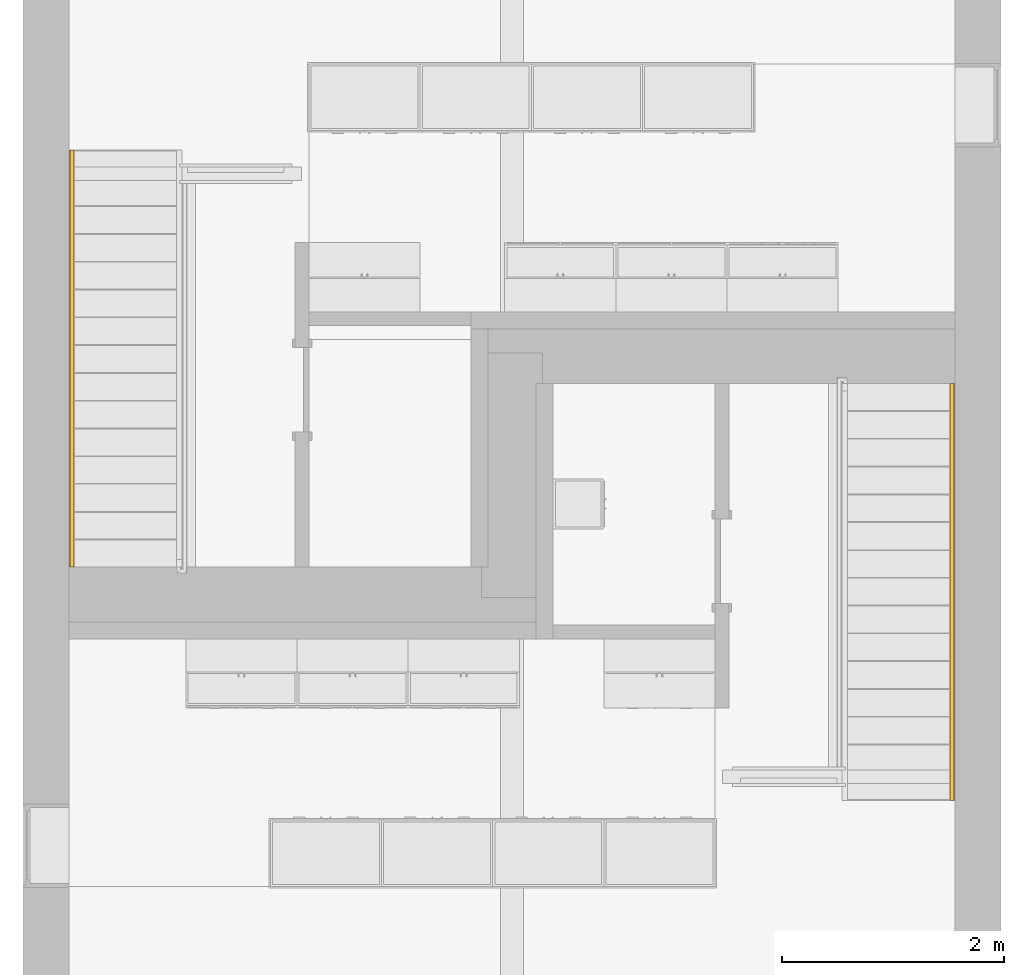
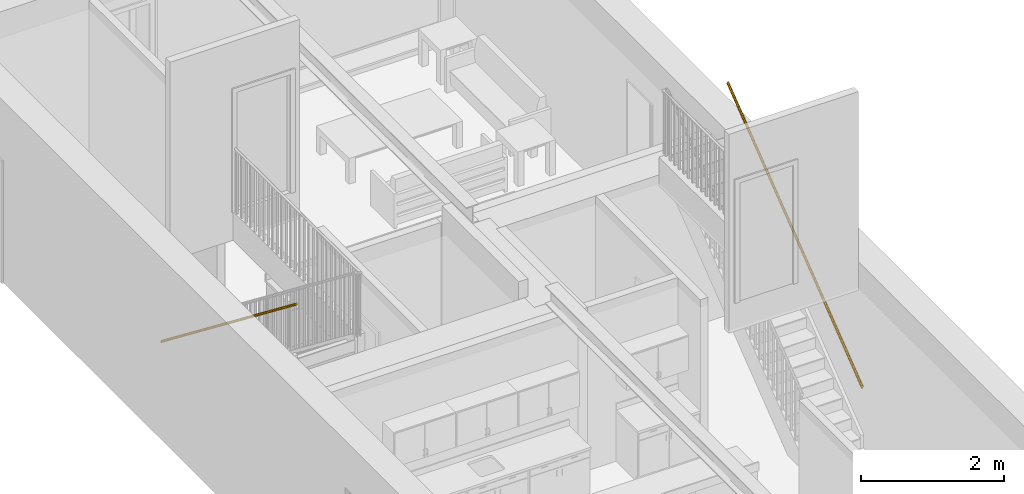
# One storey, part 3 of 14: 2 railings, 2 elements without a shape of their own.
"""IFC4 building model written with IfcOpenShell, lengths in metres."""

from ifc_helpers import new_model, entity, si_unit, converted_unit, frame, origin, place, context, project, spatial, face_set, surface_model, element, aggregate, save


model = new_model("IFC4")

# Units and contexts
model_context = context("Model", 3, precision=1e-09, world=origin())
plan_context = context("Plan", 3, precision=1e-09, world=origin())
ifc_project = project(units=[si_unit("LENGTHUNIT", "METRE"), si_unit("AREAUNIT", "SQUARE_METRE"), si_unit("VOLUMEUNIT", "CUBIC_METRE"), converted_unit("PLANEANGLEUNIT", "DEGREE", entity("IfcRatioMeasure", 0.01745329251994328), si_unit("PLANEANGLEUNIT", "RADIAN"), dimensions=[0, 0, 0, 0, 0, 0, 0]), si_unit("TIMEUNIT", "SECOND")], contexts=[model_context, plan_context])

# Site, building, storey
site_placement = place(None, origin())
site = spatial("IfcSite", under=ifc_project, at=site_placement, Name="Default", CompositionType="ELEMENT")
building_placement = place(site_placement, origin())
building = spatial("IfcBuilding", under=site, at=building_placement, CompositionType="ELEMENT")
storey_placement = place(building_placement, origin())
storey = spatial("IfcBuildingStorey", under=building, at=storey_placement, Name="Level 1", CompositionType="ELEMENT", Elevation=0.0)

# Stair, railing
stair_1_placement = place(storey_placement, origin())
stair_1 = element("IfcStair", 1, at=stair_1_placement, inside=storey, Name="Stair:Residential - 200mm Max Riser 250mm Tread", ObjectType="Stair:Residential - 200mm Max Riser 250mm Tread", PredefinedType="STRAIGHT_RUN_STAIR")
railing_1_placement = place(storey_placement, frame((8.336404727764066, -11.825, 1.041548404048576)))
railing_1 = element("IfcRailing", 2, at=railing_1_placement, Name="Railing:900mm Handrail Only", ObjectType="Railing:900mm Handrail Only", PredefinedType="NOTDEFINED", context=model_context, shape_type="SurfaceModel", body=[
    surface_model("IfcFaceBasedSurfaceModel", [(0.04159527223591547, 0.0, 0.02689843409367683), (0.04091378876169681, 0.0, 0.0203494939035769), (0.03573740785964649, 0.0, 0.009006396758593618), (0.02677165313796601, 0.0, 0.002457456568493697), (0.01641889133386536, 0.0, 0.002457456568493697), (0.007453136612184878, 0.0, 0.009006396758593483), (0.002276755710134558, 0.0, 0.02034949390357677), (0.0015952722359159, 0.0, 0.02689843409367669), (0.002276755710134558, 0.0, 0.03344737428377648), (0.007453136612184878, 0.0, 0.04479047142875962), (0.01641889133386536, 0.0, 0.05133941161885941), (0.02677165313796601, 0.0, 0.05133941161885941), (0.03573740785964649, 0.0, 0.04479047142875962), (0.04091378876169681, 0.0, 0.03344737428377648), (0.04159527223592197, 3.75, 2.933148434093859), (0.04091378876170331, 3.75, 2.926599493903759), (0.03573740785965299, 3.75, 2.915256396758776), (0.0267716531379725, 3.75, 2.908707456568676), (0.01641889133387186, 3.75, 2.908707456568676), (0.007453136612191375, 3.75, 2.915256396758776), (0.002276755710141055, 3.75, 2.926599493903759), (0.001595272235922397, 3.75, 2.933148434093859), (0.002276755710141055, 3.75, 2.939697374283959), (0.007453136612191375, 3.75, 2.951040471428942), (0.01641889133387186, 3.75, 2.957589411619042), (0.0267716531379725, 3.75, 2.957589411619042), (0.03573740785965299, 3.75, 2.951040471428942), (0.04091378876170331, 3.75, 2.939697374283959), (0.004274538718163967, 3.749999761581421, 2.920496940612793), (0.01159502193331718, 3.749999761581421, 2.911235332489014), (0.01159502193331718, -3.082275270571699e-07, 0.004985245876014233), (0.004274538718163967, -3.082275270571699e-07, 0.01424681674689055), (0.02159499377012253, 3.749999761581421, 2.907845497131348), (0.02159499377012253, -3.082275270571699e-07, 0.001595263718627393), (0.03159554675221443, 3.749999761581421, 2.911235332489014), (0.03159554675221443, -3.082275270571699e-07, 0.004985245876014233), (0.03891602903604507, 3.749999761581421, 2.920496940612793), (0.03891602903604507, -3.082275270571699e-07, 0.01424681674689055), (0.03891602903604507, 3.749999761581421, 2.945800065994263), (0.03891602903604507, -3.082275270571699e-07, 0.03954999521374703), (0.03159554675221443, -3.082275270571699e-07, 0.04881164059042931), (0.03159554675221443, 3.749999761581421, 2.955061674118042), (0.02159499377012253, -3.082275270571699e-07, 0.05220162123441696), (0.02159499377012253, 3.749999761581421, 2.958451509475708), (0.01159502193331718, 3.749999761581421, 2.955061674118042), (0.01159502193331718, -3.082275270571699e-07, 0.04881164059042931), (0.004274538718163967, 3.749999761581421, 2.945800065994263), (0.004274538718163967, -3.082275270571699e-07, 0.03954999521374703)], [face_set([[[0, 1, 2, 3, 4, 5, 6, 7, 8, 9, 10, 11, 12, 13]], [[14, 15, 16, 17, 18, 19, 20, 21, 22, 23, 24, 25, 26, 27]], [[20, 28, 6]], [[21, 20, 7]], [[29, 18, 30]], [[19, 29, 5]], [[28, 19, 31]], [[28, 31, 6]], [[6, 7, 20]], [[5, 29, 30]], [[4, 30, 18]], [[31, 19, 5]], [[32, 33, 4, 18]], [[34, 16, 2]], [[17, 34, 35]], [[15, 14, 0]], [[36, 15, 1]], [[16, 36, 37]], [[32, 17, 3, 33]], [[17, 35, 3]], [[16, 37, 2]], [[34, 2, 35]], [[36, 1, 37]], [[15, 0, 1]], [[27, 13, 14]], [[38, 39, 27]], [[40, 26, 41]], [[38, 26, 12]], [[41, 25, 11, 40]], [[13, 0, 14]], [[39, 13, 27]], [[42, 11, 25]], [[40, 12, 26]], [[39, 38, 12]], [[25, 43, 42]], [[42, 24, 10]], [[10, 24, 44, 45]], [[9, 23, 46]], [[44, 23, 45]], [[47, 46, 22]], [[45, 23, 9]], [[22, 8, 47]], [[47, 9, 46]], [[7, 8, 21]], [[22, 21, 8]], [[24, 42, 43]]])]),
])
aggregate(stair_1, [railing_1])

stair_2_placement = place(storey_placement, origin())
stair_2 = element("IfcStair", 3, at=stair_2_placement, inside=storey, Name="Stair:Residential - 200mm Max Riser 250mm Tread", ObjectType="Stair:Residential - 200mm Max Riser 250mm Tread", PredefinedType="STRAIGHT_RUN_STAIR")
railing_2_placement = place(storey_placement, frame((0.4204047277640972, -9.724999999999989, 1.041548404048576)))
railing_2 = element("IfcRailing", 4, at=railing_2_placement, Name="Railing:900mm Handrail Only", ObjectType="Railing:900mm Handrail Only", PredefinedType="NOTDEFINED", context=model_context, shape_type="SurfaceModel", body=[
    surface_model("IfcFaceBasedSurfaceModel", [(0.001595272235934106, 3.75, 0.02689843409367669), (0.002276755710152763, 3.75, 0.03344737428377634), (0.007453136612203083, 3.75, 0.04479047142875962), (0.01641889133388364, 3.75, 0.05133941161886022), (0.02677165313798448, 3.75, 0.05133941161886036), (0.03573740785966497, 3.75, 0.04479047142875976), (0.04091378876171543, 3.75, 0.03344737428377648), (0.04159527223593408, 3.75, 0.02689843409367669), (0.04091378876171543, 3.75, 0.02034949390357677), (0.03573740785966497, 3.75, 0.009006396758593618), (0.02677165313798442, 3.75, 0.002457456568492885), (0.01641889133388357, 3.75, 0.002457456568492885), (0.007453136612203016, 3.75, 0.009006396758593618), (0.002276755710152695, 3.75, 0.02034949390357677), (0.001595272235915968, 0.0, 2.933148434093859), (0.002276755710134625, 0.0, 2.939697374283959), (0.007453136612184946, 0.0, 2.951040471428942), (0.0164188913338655, 0.0, 2.957589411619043), (0.02677165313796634, 0.0, 2.957589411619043), (0.03573740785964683, 0.0, 2.951040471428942), (0.04091378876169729, 0.0, 2.939697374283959), (0.04159527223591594, 0.0, 2.933148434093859), (0.04091378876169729, 0.0, 2.926599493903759), (0.03573740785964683, 0.0, 2.915256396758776), (0.02677165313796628, 0.0, 2.908707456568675), (0.01641889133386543, 0.0, 2.908707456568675), (0.007453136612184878, 0.0, 2.915256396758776), (0.002276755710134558, 0.0, 2.926599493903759), (0.03891578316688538, -1.525890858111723e-09, 2.920496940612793), (0.03159526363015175, -1.525890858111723e-09, 2.911235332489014), (0.03159526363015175, 3.750000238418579, 0.004985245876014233), (0.03891578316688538, 3.750000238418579, 0.01424681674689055), (0.02159525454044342, -1.525890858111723e-09, 2.907845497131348), (0.02159525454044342, 3.750000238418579, 0.001595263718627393), (0.01159528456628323, -1.525890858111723e-09, 2.911235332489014), (0.01159528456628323, 3.750000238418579, 0.004985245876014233), (0.004274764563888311, -1.525890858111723e-09, 2.920496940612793), (0.004274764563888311, 3.750000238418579, 0.01424681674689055), (0.004274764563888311, -1.525890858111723e-09, 2.945800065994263), (0.004274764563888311, 3.750000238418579, 0.03954999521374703), (0.01159528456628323, 3.750000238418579, 0.04881164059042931), (0.01159528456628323, -1.525890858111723e-09, 2.955061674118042), (0.02159525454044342, 3.750000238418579, 0.05220162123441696), (0.02159525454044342, -1.525890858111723e-09, 2.958451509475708), (0.03159526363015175, -1.525890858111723e-09, 2.955061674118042), (0.03159526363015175, 3.750000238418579, 0.04881164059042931), (0.03891578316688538, -1.525890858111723e-09, 2.945800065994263), (0.03891578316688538, 3.750000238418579, 0.03954999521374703)], [face_set([[[0, 1, 2, 3, 4, 5, 6, 7, 8, 9, 10, 11, 12, 13]], [[14, 15, 16, 17, 18, 19, 20, 21, 22, 23, 24, 25, 26, 27]], [[22, 28, 8]], [[21, 22, 7]], [[29, 24, 30]], [[23, 29, 9]], [[28, 23, 31]], [[28, 31, 8]], [[8, 7, 22]], [[9, 29, 30]], [[10, 30, 24]], [[31, 23, 9]], [[32, 33, 10, 24]], [[34, 26, 12]], [[25, 34, 35]], [[27, 14, 0]], [[36, 27, 13]], [[26, 36, 37]], [[32, 25, 11, 33]], [[25, 35, 11]], [[26, 37, 12]], [[34, 12, 35]], [[36, 13, 37]], [[27, 0, 13]], [[15, 1, 14]], [[38, 39, 15]], [[40, 16, 41]], [[38, 16, 2]], [[41, 17, 3, 40]], [[1, 0, 14]], [[39, 1, 15]], [[42, 3, 17]], [[40, 2, 16]], [[39, 38, 2]], [[17, 43, 42]], [[42, 18, 4]], [[4, 18, 44, 45]], [[5, 19, 46]], [[44, 19, 45]], [[47, 46, 20]], [[45, 19, 5]], [[20, 6, 47]], [[47, 5, 46]], [[7, 6, 21]], [[20, 21, 6]], [[18, 42, 43]]])]),
])
aggregate(stair_2, [railing_2])

save(model, "model.ifc")
